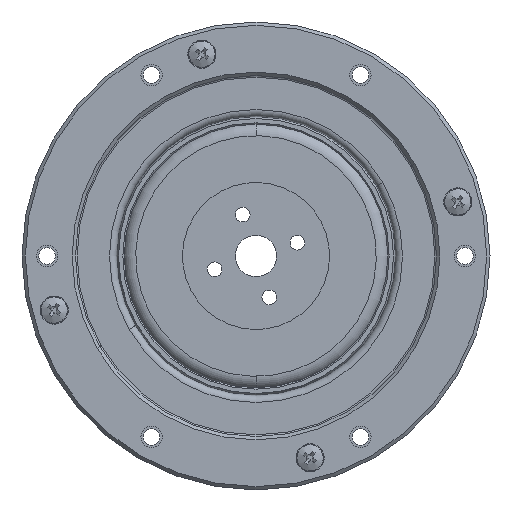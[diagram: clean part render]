
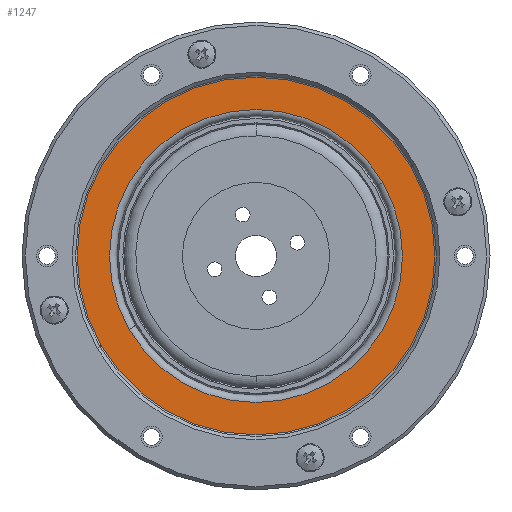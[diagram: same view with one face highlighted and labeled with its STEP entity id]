
A CAD part, left-side view. The second image highlights one B-rep face of the part: STEP entity #1247.
In plain terms, the highlighted planar face has unit normal (-1, 0, 0).
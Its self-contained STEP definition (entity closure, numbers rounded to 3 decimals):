
#348 = CIRCLE ( 'NONE', #4629, 26.75 ) ;
#557 = DIRECTION ( 'NONE',  ( 0., 0., 1. ) ) ;
#1167 = EDGE_CURVE ( 'NONE', #7910, #16097, #7145, .T. ) ;
#1175 = DIRECTION ( 'NONE',  ( 1., 0., 0. ) ) ;
#1247 = ADVANCED_FACE ( 'NONE', ( #17364, #17212 ), #16238, .F. ) ;
#1368 = DIRECTION ( 'NONE',  ( -1., 0., 0. ) ) ;
#1411 = CIRCLE ( 'NONE', #2945, 21.911 ) ;
#1867 = DIRECTION ( 'NONE',  ( 0., 0., 1. ) ) ;
#1921 = DIRECTION ( 'NONE',  ( -1., 0., 0. ) ) ;
#1985 = CARTESIAN_POINT ( 'NONE',  ( 2.86, 0., 0. ) ) ;
#2129 = CARTESIAN_POINT ( 'NONE',  ( 2.86, 0., 0. ) ) ;
#2132 = CARTESIAN_POINT ( 'NONE',  ( 2.86, 0., 0. ) ) ;
#2150 = EDGE_CURVE ( 'NONE', #9323, #7053, #11486, .T. ) ;
#2465 = CARTESIAN_POINT ( 'NONE',  ( 2.86, 26.75, 0. ) ) ;
#2945 = AXIS2_PLACEMENT_3D ( 'NONE', #2129, #11836, #3600 ) ;
#3600 = DIRECTION ( 'NONE',  ( 0., 0., 1. ) ) ;
#3951 = DIRECTION ( 'NONE',  ( 0., 0., -1. ) ) ;
#4629 = AXIS2_PLACEMENT_3D ( 'NONE', #1985, #1921, #1867 ) ;
#4727 = AXIS2_PLACEMENT_3D ( 'NONE', #2465, #1175, #3951 ) ;
#5179 = EDGE_CURVE ( 'NONE', #7053, #9323, #348, .T. ) ;
#7053 = VERTEX_POINT ( 'NONE', #11197 ) ;
#7145 = CIRCLE ( 'NONE', #7866, 21.911 ) ;
#7866 = AXIS2_PLACEMENT_3D ( 'NONE', #16286, #16314, #16333 ) ;
#7910 = VERTEX_POINT ( 'NONE', #8454 ) ;
#8454 = CARTESIAN_POINT ( 'NONE',  ( 2.86, 0., -21.911 ) ) ;
#9323 = VERTEX_POINT ( 'NONE', #13831 ) ;
#9846 = EDGE_LOOP ( 'NONE', ( #11983, #12029 ) ) ;
#10500 = AXIS2_PLACEMENT_3D ( 'NONE', #2132, #1368, #557 ) ;
#11195 = CARTESIAN_POINT ( 'NONE',  ( 2.86, 0., 21.911 ) ) ;
#11197 = CARTESIAN_POINT ( 'NONE',  ( 2.86, 0., -26.75 ) ) ;
#11486 = CIRCLE ( 'NONE', #10500, 26.75 ) ;
#11836 = DIRECTION ( 'NONE',  ( -1., 0., 0. ) ) ;
#11983 = ORIENTED_EDGE ( 'NONE', *, *, #15568, .F. ) ;
#12029 = ORIENTED_EDGE ( 'NONE', *, *, #1167, .F. ) ;
#12183 = ORIENTED_EDGE ( 'NONE', *, *, #2150, .T. ) ;
#12258 = ORIENTED_EDGE ( 'NONE', *, *, #5179, .T. ) ;
#13831 = CARTESIAN_POINT ( 'NONE',  ( 2.86, 0., 26.75 ) ) ;
#14057 = EDGE_LOOP ( 'NONE', ( #12183, #12258 ) ) ;
#15568 = EDGE_CURVE ( 'NONE', #16097, #7910, #1411, .T. ) ;
#16097 = VERTEX_POINT ( 'NONE', #11195 ) ;
#16238 = PLANE ( 'NONE',  #4727 ) ;
#16286 = CARTESIAN_POINT ( 'NONE',  ( 2.86, 0., 0. ) ) ;
#16314 = DIRECTION ( 'NONE',  ( -1., 0., 0. ) ) ;
#16333 = DIRECTION ( 'NONE',  ( 0., 0., 1. ) ) ;
#17212 = FACE_OUTER_BOUND ( 'NONE', #14057, .T. ) ;
#17364 = FACE_BOUND ( 'NONE', #9846, .T. ) ;
